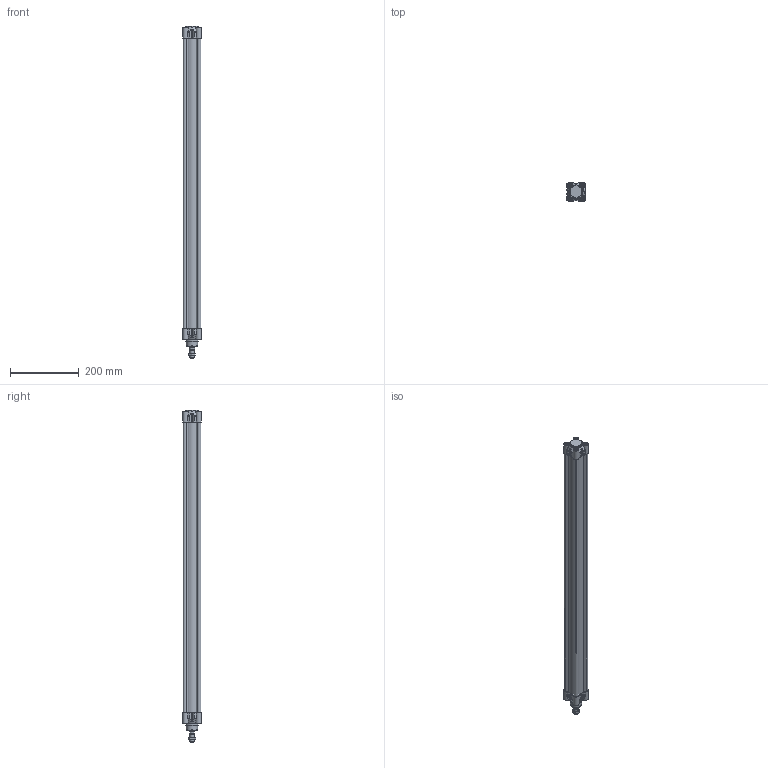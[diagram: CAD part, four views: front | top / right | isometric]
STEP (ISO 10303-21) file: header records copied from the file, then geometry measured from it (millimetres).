
FILE_DESCRIPTION(/* description */ ('Unknown'),/* implementation_level */ '2;1');
FILE_NAME(/* name */ 'HIF 40_800',/* time_stamp */ '2024-08-12T08:13:12+02:00',/* author */ ('Unknown'),/* organization */ ('Unknown'),/* preprocessor_version */ 'ST-DEVELOPER v16.7',/* originating_system */ 'Solid Edge',/* authorisation */ 'Unknown');
FILE_SCHEMA (('AUTOMOTIVE_DESIGN {1 0 10303 214 3 1 1}'));
Length unit declared in the file: millimetre
Products named in the file (6): HIF 40_800; Kit_2; Kit_1; Profilrohr 40_800; Mutter; Kolbenstange 40_800
Assembly tree (5 placements, depth 2):
  HIF 40_800
    Kit_2
    Kit_1
    Profilrohr 40_800
    Mutter
    Kolbenstange 40_800
Bounding box: 54.5 x 54.5 x 963 mm (x, y, z)
Volume: 903911.6 mm3; surface area: 550871.8 mm2
Topology: 5 solids, 10 shells, 922 faces, 2342 edges, 1525 vertices
Faces by surface type: plane 367, cylinder 300, cone 89, torus 74, bspline 74, sphere 18
Full cylindrical faces by diameter (mm): 2.5 x2, 4.917 x16, 6 x8, 6.2 x8, 7 x2, 9.9 x2, 10 x13, 10.3 x8, 10.647 x1, 11.44 x2, 11.445 x2, 12 x1, 15.5 x1, 16 x2, 16.6 x1, 16.8 x1, 16.847 x1, 20 x1, 26 x2, 33 x1, 35 x2, 40 x2
Entity records: 35939 total; most frequent: CARTESIAN_POINT 8998, ORIENTED_EDGE 4544, DIRECTION 4322, EDGE_CURVE 2272, AXIS2_PLACEMENT_3D 1647, VERTEX_POINT 1507, FACE_BOUND 1081, EDGE_LOOP 1073
